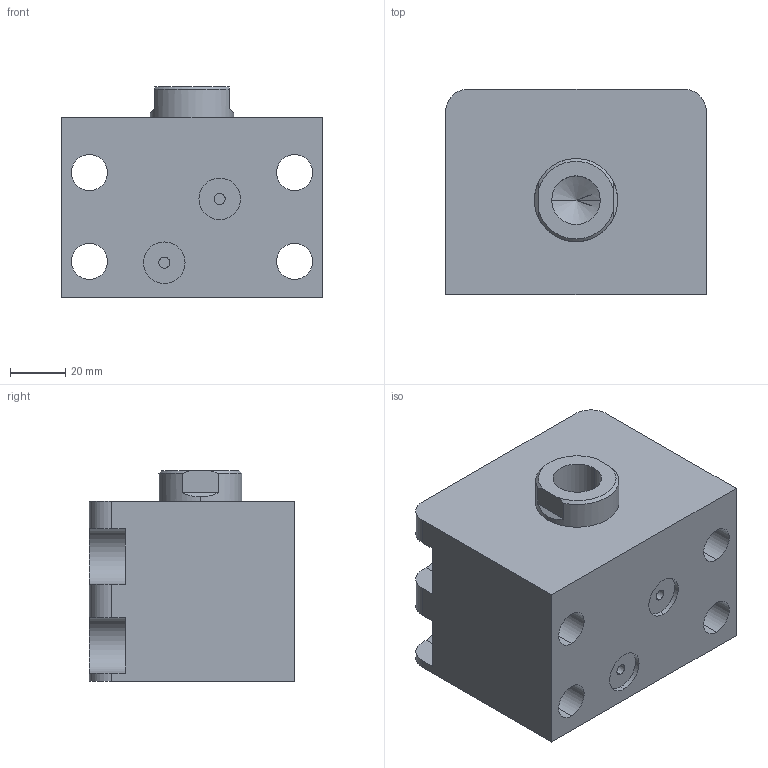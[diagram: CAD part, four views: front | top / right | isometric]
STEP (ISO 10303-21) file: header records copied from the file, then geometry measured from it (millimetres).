
FILE_DESCRIPTION (( 'STEP AP203' ), '1' );
FILE_NAME ('HTB-LAM50-5N.STEP', '2023-03-20T00:40:30', ( '微软用户' ), ( '微软中国' ), 'SwSTEP 2.0', 'SolidWorks 2012', '' );
FILE_SCHEMA (( 'CONFIG_CONTROL_DESIGN' ));
Length unit declared in the file: millimetre
Products named in the file (3): HTB-LAM50-5N; HTB-LAM50-5N活塞杆; HTB-LAM50-5掛极
Assembly tree (2 placements, depth 2):
  HTB-LAM50-5N
    HTB-LAM50-5掛极
    HTB-LAM50-5N活塞杆
Bounding box: 94 x 74 x 76 mm (x, y, z)
Volume: 394203.7 mm3; surface area: 68354.2 mm2
Topology: 2 solids, 2 shells, 75 faces, 186 edges, 121 vertices
Faces by surface type: cylinder 36, plane 31, torus 4, cone 4
Entity records: 2569 total; most frequent: DIRECTION 418, CARTESIAN_POINT 413, ORIENTED_EDGE 368, EDGE_CURVE 184, AXIS2_PLACEMENT_3D 162, VERTEX_POINT 121, VECTOR 94, LINE 94
